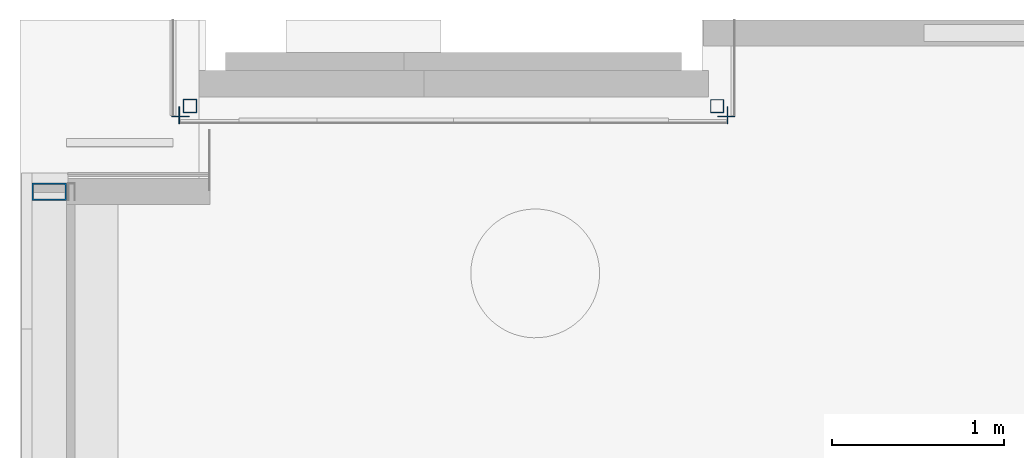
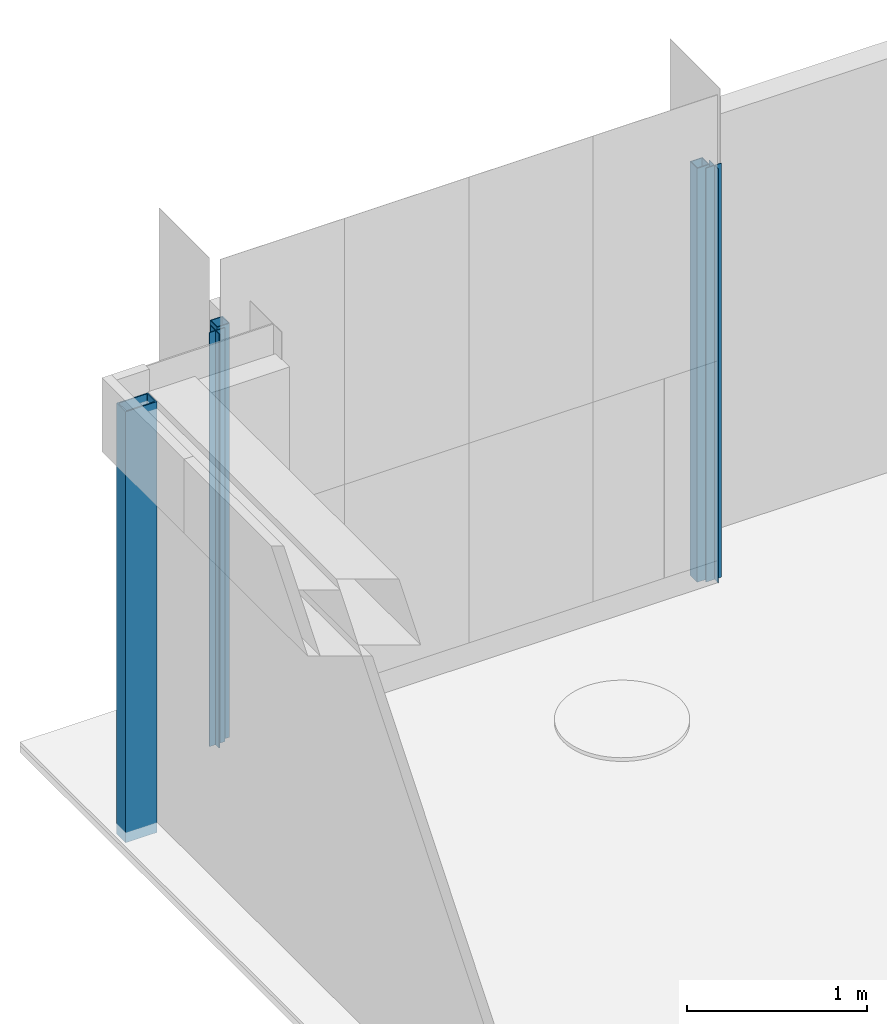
# One storey, part 2 of 14: 5 columns.
"""IFC2X3 building model written with IfcOpenShell, lengths in millimetres."""

from ifc_helpers import new_model, entity, si_unit, converted_unit, derived_unit, direction, frame, frame_2d, origin, origin_with_axes, place, context, subcontext, project, spatial, polyline, circle_curve, parameter, trimmed, segment, composite_curve, outline, extrude, source, transform, mapped, material, type_object, element, save


model = new_model("IFC2X3")

# Units and contexts
model_context = context("Model", 3, precision=0.01, world=frame((0.0, 4.29681676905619e-09, 0.0)), true_north=direction((4.01073788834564e-13, 1.0)))
plan_context = context("Plan", 3, precision=0.01, world=frame((0.0, 4.29681676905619e-09, 0.0)), true_north=direction((4.01073788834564e-13, 1.0)))
body_context = subcontext(model_context, "Body", "Model", "MODEL_VIEW")
ifc_project = project(units=[converted_unit("PLANEANGLEUNIT", "DEGREE", entity("IfcPositiveLengthMeasure", 0.0174532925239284), si_unit("PLANEANGLEUNIT", "RADIAN"), dimensions=[0, 0, 0, 0, 0, 0, 0]), si_unit("AREAUNIT", "SQUARE_METRE"), si_unit("LENGTHUNIT", "METRE", prefix="MILLI"), si_unit("MASSUNIT", "GRAM", prefix="KILO"), si_unit("POWERUNIT", "WATT"), si_unit("PRESSUREUNIT", "PASCAL"), si_unit("FORCEUNIT", "NEWTON", prefix="KILO"), si_unit("ELECTRICVOLTAGEUNIT", "VOLT"), si_unit("ELECTRICCURRENTUNIT", "AMPERE"), si_unit("THERMODYNAMICTEMPERATUREUNIT", "DEGREE_CELSIUS"), si_unit("TIMEUNIT", "SECOND"), si_unit("VOLUMEUNIT", "CUBIC_METRE"), derived_unit("LINEARVELOCITYUNIT", [(si_unit("LENGTHUNIT", "METRE"), 1), (si_unit("TIMEUNIT", "SECOND"), -1)]), derived_unit("VOLUMETRICFLOWRATEUNIT", [(si_unit("VOLUMEUNIT", "CUBIC_METRE"), 1), (si_unit("TIMEUNIT", "SECOND"), -1)]), derived_unit("THERMALTRANSMITTANCEUNIT", [(si_unit("POWERUNIT", "WATT"), 1), (si_unit("THERMODYNAMICTEMPERATUREUNIT", "KELVIN"), -1), (si_unit("AREAUNIT", "SQUARE_METRE"), -1)]), derived_unit("SOUNDPRESSUREUNIT", [(si_unit("PRESSUREUNIT", "PASCAL"), 1)])], contexts=[model_context, plan_context])

# Site, building, storey
site_placement = place(None, origin_with_axes())
site = spatial("IfcSite", under=ifc_project, at=site_placement, Name="ENGM", CompositionType="ELEMENT")
building_placement = place(site_placement, origin_with_axes())
building = spatial("IfcBuilding", under=site, at=building_placement, Name="TI", CompositionType="ELEMENT")
storey_placement = place(building_placement, frame((0.0, 0.0, 210900.0), z_axis=(0.0, 0.0, 1.0), x_axis=(1.0, 0.0, 0.0)))
storey = spatial("IfcBuildingStorey", under=building, at=storey_placement, Name="Nivå F", CompositionType="ELEMENT", Elevation=210900.0)

# Columns
ifc_material_1 = material(Name="_NSW Aluminium")
column_type_1 = type_object("IfcColumnType", Name="A222 - Ekstrudert Aluminiumsprofil - Hjørneprofil - Hel:A222 - Ekstrudert Aluminiumsprofil", PredefinedType="COLUMN", material=ifc_material_1)
shared_shape_1 = source(origin(), body_context, "Body", "SweptSolid", [
    extrude(outline(composite_curve([segment(polyline([(-42.1761976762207, 2.82981407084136), (-42.1761976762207, 1.78160499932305)]), True, "CONTINUOUS"), segment(trimmed(circle_curve(frame_2d((-39.2244067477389, 1.78160499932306), x_axis=(0.0, -1.0)), 2.95179092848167), [parameter(270.0)], [parameter(3.05333249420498e-13)], True, "PARAMETER"), True, "CONTINUOUS"), segment(polyline([(-39.2244067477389, -1.17018592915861), (-2.17494075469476, -1.1701859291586)]), True, "CONTINUOUS"), segment(trimmed(circle_curve(frame_2d((-2.17494075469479, -2.16892900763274), x_axis=(0.0, -1.0)), 0.998743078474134), [parameter(90.0000000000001)], [parameter(180.0)], True, "PARAMETER"), False, "CONTINUOUS"), segment(polyline([(-1.17619767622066, -2.16892900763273), (-1.17619767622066, -39.1789731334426)]), True, "CONTINUOUS"), segment(trimmed(circle_curve(frame_2d((1.81501511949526, -39.1789731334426), x_axis=(0.0, -1.0)), 2.99121279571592), [parameter(270.0)], [parameter(3.56222124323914e-13)], True, "PARAMETER"), True, "CONTINUOUS"), segment(polyline([(1.81501511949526, -42.1701859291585), (2.82380232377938, -42.1701859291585)]), True, "CONTINUOUS"), segment(polyline([(2.82380232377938, -42.1701859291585), (2.82380232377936, -2.20446749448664)]), True, "CONTINUOUS"), segment(trimmed(circle_curve(frame_2d((3.85808388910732, -2.20446749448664), x_axis=(0.0, -1.0)), 1.03428156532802), [parameter(180.0)], [parameter(270.0)], True, "PARAMETER"), False, "CONTINUOUS"), segment(polyline([(3.85808388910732, -1.17018592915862), (57.8238023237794, -1.1701859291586)]), True, "CONTINUOUS"), segment(polyline([(57.8238023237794, -1.1701859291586), (57.8238023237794, 2.82981407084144)]), True, "CONTINUOUS"), segment(polyline([(57.8238023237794, 2.82981407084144), (2.82380232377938, 2.82981407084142)]), True, "CONTINUOUS"), segment(polyline([(2.82380232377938, 2.82981407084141), (2.82380232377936, 57.8298140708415)]), True, "CONTINUOUS"), segment(polyline([(2.82380232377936, 57.8298140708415), (-1.17619767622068, 57.8298140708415)]), True, "CONTINUOUS"), segment(polyline([(-1.17619767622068, 57.8298140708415), (-1.17619767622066, 3.81299578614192)]), True, "CONTINUOUS"), segment(trimmed(circle_curve(frame_2d((-2.15937939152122, 3.81299578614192), x_axis=(0.0, -1.0)), 0.983181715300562), [parameter(0.0)], [parameter(90.0000000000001)], True, "PARAMETER"), False, "CONTINUOUS"), segment(polyline([(-2.15937939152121, 2.82981407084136), (-42.1761976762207, 2.82981407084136)]), True, "CONTINUOUS")], self_intersect=False)), frame((17.8298140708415, 17.8238023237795, 210900.0), z_axis=(0.0, 0.0, -1.0), x_axis=(0.0, -1.0, 0.0)), (0.0, 0.0, -1.0), 2799.99999999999),
])
column_1_placement = place(storey_placement, frame((598944.513867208, 698929.999999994, -210900.0), z_axis=(0.0, 0.0, 1.0), x_axis=(-1.0, 0.0, 0.0)))
element("IfcColumn", 1, at=column_1_placement, inside=storey, type_object=column_type_1, material=ifc_material_1, Name="A222 - Ekstrudert Aluminiumsprofil - Hjørneprofil - Hel:A222 - Ekstrudert Aluminiumsprofil", ObjectType="A222 - Ekstrudert Aluminiumsprofil - Hjørneprofil - Hel:A222 - Ekstrudert Aluminiumsprofil", context=body_context, shape_type="MappedRepresentation", body=[
    mapped(shared_shape_1, transform((0.0, 0.0, 0.0), scale=1.0)),
])
ifc_material_2 = material(Name="_NSW Stål")
column_type_2 = type_object("IfcColumnType", Name="B222 - HUP:B222 - HUP - 80 x 80 x 5 mm", PredefinedType="COLUMN", material=ifc_material_2)
shared_shape_2 = source(origin(), body_context, "Body", "SweptSolid", [
    extrude(outline(composite_curve([segment(trimmed(circle_curve(frame_2d((35.0, -35.0), x_axis=(1.0, 0.0)), 5.0), [parameter(269.999999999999)], [parameter(360.0)], True, "PARAMETER"), True, "CONTINUOUS"), segment(polyline([(40.0, -35.0), (40.0, 35.0)]), True, "CONTINUOUS"), segment(trimmed(circle_curve(frame_2d((35.0, 35.0), x_axis=(1.0, 0.0)), 5.0), [parameter(360.0)], [parameter(89.9999999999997)], True, "PARAMETER"), True, "CONTINUOUS"), segment(polyline([(35.0, 40.0), (-35.0, 40.0)]), True, "CONTINUOUS"), segment(trimmed(circle_curve(frame_2d((-35.0, 35.0), x_axis=(1.0, 0.0)), 5.0), [parameter(90.0)], [parameter(180.0)], True, "PARAMETER"), True, "CONTINUOUS"), segment(polyline([(-40.0, 35.0), (-40.0, -35.0)]), True, "CONTINUOUS"), segment(trimmed(circle_curve(frame_2d((-35.0, -35.0), x_axis=(1.0, 0.0)), 5.0), [parameter(180.0)], [parameter(269.999999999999)], True, "PARAMETER"), True, "CONTINUOUS"), segment(polyline([(-35.0, -40.0), (35.0, -40.0)]), True, "CONTINUOUS")], self_intersect=False), holes=[composite_curve([segment(polyline([(32.4999999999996, -35.0), (-32.4999999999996, -35.0)]), True, "CONTINUOUS"), segment(trimmed(circle_curve(frame_2d((-32.4999999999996, -32.4999999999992), x_axis=(1.0, 0.0)), 2.5), [parameter(180.0)], [parameter(270.0)], True, "PARAMETER"), False, "CONTINUOUS"), segment(polyline([(-35.0, -32.4999999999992), (-35.0, 32.5000000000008)]), True, "CONTINUOUS"), segment(trimmed(circle_curve(frame_2d((-32.4999999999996, 32.5000000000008), x_axis=(1.0, 0.0)), 2.5), [parameter(89.9999999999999)], [parameter(180.0)], True, "PARAMETER"), False, "CONTINUOUS"), segment(polyline([(-32.4999999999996, 35.0), (32.4999999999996, 35.0)]), True, "CONTINUOUS"), segment(trimmed(circle_curve(frame_2d((32.4999999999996, 32.5000000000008), x_axis=(1.0, 0.0)), 2.5), [parameter(4.07110999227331e-13)], [parameter(90.0000000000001)], True, "PARAMETER"), False, "CONTINUOUS"), segment(polyline([(35.0, 32.5000000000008), (35.0, -32.4999999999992)]), True, "CONTINUOUS"), segment(trimmed(circle_curve(frame_2d((32.4999999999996, -32.4999999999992), x_axis=(1.0, 0.0)), 2.5), [parameter(270.0)], [parameter(0.0)], True, "PARAMETER"), False, "CONTINUOUS")], self_intersect=False)]), frame((0.0, 0.0, 210900.0)), (0.0, 0.0, 1.0), 2799.99999999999),
    extrude(outline(polyline([(-40.0, -40.0), (40.0, -40.0), (40.0, 40.0), (-40.0, 40.0), (-40.0, -40.0)]), holes=[polyline([(-35.0, -35.0), (-35.0, 35.0), (35.0, 35.0), (35.0, -35.0), (-35.0, -35.0)])]), frame((0.0, 0.0, 210900.0), z_axis=(0.0, 0.0, 1.0), x_axis=(0.0, 1.0, 0.0)), (0.0, 0.0, 1.0), 2799.99999999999),
])
column_2_placement = place(storey_placement, frame((598989.513867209, 698974.999999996, -210900.0), z_axis=(0.0, 0.0, 1.0), x_axis=(-1.0, 0.0, 0.0)))
element("IfcColumn", 2, at=column_2_placement, inside=storey, type_object=column_type_2, material=ifc_material_2, Name="B222 - HUP:B222 - HUP - 80 x 80 x 5 mm", ObjectType="B222 - HUP:B222 - HUP - 80 x 80 x 5 mm", context=body_context, shape_type="MappedRepresentation", body=[
    mapped(shared_shape_2, transform((0.0, 0.0, 0.0), scale=1.0)),
])
column_type_3 = type_object("IfcColumnType", Name="A222 - Ekstrudert Aluminiumsprofil - Hjørneprofil - Hel:A222 - Ekstrudert Aluminiumsprofil", PredefinedType="COLUMN", material=ifc_material_1)
shared_shape_3 = source(origin(), body_context, "Body", "SweptSolid", [
    extrude(outline(composite_curve([segment(polyline([(-2.82981407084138, -42.1761976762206), (-1.78160499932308, -42.1761976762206)]), True, "CONTINUOUS"), segment(trimmed(circle_curve(frame_2d((-1.78160499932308, -39.2244067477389), x_axis=(1.0, 0.0)), 2.95179092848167), [parameter(270.0)], [parameter(3.05333249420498e-13)], True, "PARAMETER"), True, "CONTINUOUS"), segment(polyline([(1.17018592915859, -39.2244067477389), (1.17018592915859, -2.17494075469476)]), True, "CONTINUOUS"), segment(trimmed(circle_curve(frame_2d((2.16892900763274, -2.17494075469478), x_axis=(1.0, 0.0)), 0.998743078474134), [parameter(90.0000000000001)], [parameter(180.0)], True, "PARAMETER"), False, "CONTINUOUS"), segment(polyline([(2.16892900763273, -1.17619767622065), (39.1789731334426, -1.17619767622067)]), True, "CONTINUOUS"), segment(trimmed(circle_curve(frame_2d((39.1789731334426, 1.81501511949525), x_axis=(1.0, 0.0)), 2.99121279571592), [parameter(270.0)], [parameter(3.56222124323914e-13)], True, "PARAMETER"), True, "CONTINUOUS"), segment(polyline([(42.1701859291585, 1.81501511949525), (42.1701859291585, 2.82380232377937)]), True, "CONTINUOUS"), segment(polyline([(42.1701859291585, 2.82380232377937), (2.20446749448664, 2.82380232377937)]), True, "CONTINUOUS"), segment(trimmed(circle_curve(frame_2d((2.20446749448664, 3.85808388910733), x_axis=(1.0, 0.0)), 1.03428156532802), [parameter(180.0)], [parameter(270.0)], True, "PARAMETER"), False, "CONTINUOUS"), segment(polyline([(1.17018592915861, 3.85808388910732), (1.17018592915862, 57.8238023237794)]), True, "CONTINUOUS"), segment(polyline([(1.17018592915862, 57.8238023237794), (-2.82981407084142, 57.8238023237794)]), True, "CONTINUOUS"), segment(polyline([(-2.82981407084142, 57.8238023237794), (-2.82981407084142, 2.82380232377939)]), True, "CONTINUOUS"), segment(polyline([(-2.82981407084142, 2.82380232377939), (-57.8298140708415, 2.82380232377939)]), True, "CONTINUOUS"), segment(polyline([(-57.8298140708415, 2.82380232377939), (-57.8298140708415, -1.17619767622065)]), True, "CONTINUOUS"), segment(polyline([(-57.8298140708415, -1.17619767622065), (-3.81299578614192, -1.17619767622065)]), True, "CONTINUOUS"), segment(trimmed(circle_curve(frame_2d((-3.81299578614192, -2.15937939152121), x_axis=(1.0, 0.0)), 0.983181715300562), [parameter(0.0)], [parameter(90.0000000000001)], True, "PARAMETER"), False, "CONTINUOUS"), segment(polyline([(-2.82981407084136, -2.15937939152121), (-2.82981407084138, -42.1761976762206)]), True, "CONTINUOUS")], self_intersect=False)), frame((17.8298140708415, -17.8238023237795, 210900.0)), (0.0, 0.0, 1.0), 2799.99999999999),
])
column_3_placement = place(storey_placement, frame((602102.506445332, 698929.999999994, -210900.0), z_axis=(0.0, 0.0, 1.0), x_axis=(1.0, 0.0, 0.0)))
element("IfcColumn", 3, at=column_3_placement, inside=storey, type_object=column_type_3, material=ifc_material_1, Name="A222 - Ekstrudert Aluminiumsprofil - Hjørneprofil - Hel:A222 - Ekstrudert Aluminiumsprofil", ObjectType="A222 - Ekstrudert Aluminiumsprofil - Hjørneprofil - Hel:A222 - Ekstrudert Aluminiumsprofil", context=body_context, shape_type="MappedRepresentation", body=[
    mapped(shared_shape_3, transform((0.0, 0.0, 0.0), scale=1.0)),
])
column_type_4 = type_object("IfcColumnType", Name="B222 - HUP:B222 - HUP - 80 x 80 x 5 mm", PredefinedType="COLUMN", material=ifc_material_2)
shared_shape_4 = source(origin(), body_context, "Body", "SweptSolid", [
    extrude(outline(composite_curve([segment(polyline([(-35.0, -40.0), (35.0, -40.0)]), True, "CONTINUOUS"), segment(trimmed(circle_curve(frame_2d((35.0, -35.0), x_axis=(-1.0, 0.0)), 5.0), [parameter(90.0000000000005)], [parameter(180.0)], True, "PARAMETER"), True, "CONTINUOUS"), segment(polyline([(40.0, -35.0), (40.0, 35.0)]), True, "CONTINUOUS"), segment(trimmed(circle_curve(frame_2d((35.0, 35.0), x_axis=(-1.0, 0.0)), 5.0), [parameter(180.0)], [parameter(270.0)], True, "PARAMETER"), True, "CONTINUOUS"), segment(polyline([(35.0, 40.0), (-35.0, 40.0)]), True, "CONTINUOUS"), segment(trimmed(circle_curve(frame_2d((-35.0, 35.0), x_axis=(-1.0, 0.0)), 5.0), [parameter(270.0)], [parameter(4.07110999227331e-13)], True, "PARAMETER"), True, "CONTINUOUS"), segment(polyline([(-40.0, 35.0), (-40.0, -35.0)]), True, "CONTINUOUS"), segment(trimmed(circle_curve(frame_2d((-35.0, -35.0), x_axis=(-1.0, 0.0)), 5.0), [parameter(4.07110999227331e-13)], [parameter(90.0000000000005)], True, "PARAMETER"), True, "CONTINUOUS")], self_intersect=False), holes=[composite_curve([segment(trimmed(circle_curve(frame_2d((-32.4999999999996, -32.4999999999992), x_axis=(-1.0, 0.0)), 2.5), [parameter(0.0)], [parameter(90.0)], True, "PARAMETER"), False, "CONTINUOUS"), segment(polyline([(-35.0, -32.4999999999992), (-35.0, 32.5000000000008)]), True, "CONTINUOUS"), segment(trimmed(circle_curve(frame_2d((-32.4999999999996, 32.5000000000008), x_axis=(-1.0, 0.0)), 2.5), [parameter(270.0)], [parameter(360.0)], True, "PARAMETER"), False, "CONTINUOUS"), segment(polyline([(-32.4999999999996, 35.0), (32.4999999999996, 35.0)]), True, "CONTINUOUS"), segment(trimmed(circle_curve(frame_2d((32.4999999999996, 32.5000000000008), x_axis=(-1.0, 0.0)), 2.5), [parameter(180.0)], [parameter(270.0)], True, "PARAMETER"), False, "CONTINUOUS"), segment(polyline([(35.0, 32.5000000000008), (35.0, -32.4999999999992)]), True, "CONTINUOUS"), segment(trimmed(circle_curve(frame_2d((32.4999999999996, -32.4999999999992), x_axis=(-1.0, 0.0)), 2.5), [parameter(90.0)], [parameter(180.0)], True, "PARAMETER"), False, "CONTINUOUS"), segment(polyline([(32.4999999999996, -35.0), (-32.4999999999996, -35.0)]), True, "CONTINUOUS")], self_intersect=False)]), frame((0.0, 0.0, 210900.0), z_axis=(0.0, 0.0, 1.0), x_axis=(-1.0, 0.0, 0.0)), (0.0, 0.0, 1.0), 2799.99999999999),
    extrude(outline(polyline([(-40.0, -40.0), (40.0, -40.0), (40.0, 40.0), (-40.0, 40.0), (-40.0, -40.0)]), holes=[polyline([(-35.0, -35.0), (-35.0, 35.0), (35.0, 35.0), (35.0, -35.0), (-35.0, -35.0)])]), frame((0.0, 0.0, 210900.0), z_axis=(0.0, 0.0, 1.0), x_axis=(-1.0, 0.0, 0.0)), (0.0, 0.0, 1.0), 2799.99999999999),
])
column_4_placement = place(storey_placement, frame((602059.506445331, 698973.999999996, -210900.0), z_axis=(0.0, 0.0, 1.0), x_axis=(1.0, 0.0, 0.0)))
element("IfcColumn", 4, at=column_4_placement, inside=storey, type_object=column_type_4, material=ifc_material_2, Name="B222 - HUP:B222 - HUP - 80 x 80 x 5 mm", ObjectType="B222 - HUP:B222 - HUP - 80 x 80 x 5 mm", context=body_context, shape_type="MappedRepresentation", body=[
    mapped(shared_shape_4, transform((0.0, 0.0, 0.0), scale=1.0)),
])
column_type_5 = type_object("IfcColumnType", Name="B222 - HUP:B222 - HUP - 200 x 100 x 8", PredefinedType="COLUMN", material=ifc_material_2)
shared_shape_5 = source(origin(), body_context, "Body", "SweptSolid", [
    extrude(outline(composite_curve([segment(trimmed(circle_curve(frame_2d((42.0, -92.0), x_axis=(1.0, 0.0)), 8.0), [parameter(270.0)], [parameter(360.0)], True, "PARAMETER"), True, "CONTINUOUS"), segment(polyline([(50.0, -92.0), (50.0, 92.0)]), True, "CONTINUOUS"), segment(trimmed(circle_curve(frame_2d((42.0, 92.0), x_axis=(1.0, 0.0)), 8.0), [parameter(360.0)], [parameter(89.9999999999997)], True, "PARAMETER"), True, "CONTINUOUS"), segment(polyline([(42.0, 100.0), (-42.0, 100.0)]), True, "CONTINUOUS"), segment(trimmed(circle_curve(frame_2d((-42.0, 92.0), x_axis=(1.0, 0.0)), 8.0), [parameter(90.0)], [parameter(180.0)], True, "PARAMETER"), True, "CONTINUOUS"), segment(polyline([(-50.0, 92.0), (-50.0, -92.0)]), True, "CONTINUOUS"), segment(trimmed(circle_curve(frame_2d((-42.0, -92.0), x_axis=(1.0, 0.0)), 8.0), [parameter(180.0)], [parameter(269.999999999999)], True, "PARAMETER"), True, "CONTINUOUS"), segment(polyline([(-42.0, -100.0), (42.0, -100.0)]), True, "CONTINUOUS")], self_intersect=False), holes=[composite_curve([segment(polyline([(38.0, -92.0), (-38.0, -92.0)]), True, "CONTINUOUS"), segment(trimmed(circle_curve(frame_2d((-38.0, -88.0), x_axis=(1.0, 0.0)), 4.0), [parameter(180.0)], [parameter(270.0)], True, "PARAMETER"), False, "CONTINUOUS"), segment(polyline([(-42.0, -88.0), (-42.0, 88.0)]), True, "CONTINUOUS"), segment(trimmed(circle_curve(frame_2d((-38.0, 88.0), x_axis=(1.0, 0.0)), 4.0), [parameter(90.0000000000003)], [parameter(180.0)], True, "PARAMETER"), False, "CONTINUOUS"), segment(polyline([(-38.0, 92.0), (38.0, 92.0)]), True, "CONTINUOUS"), segment(trimmed(circle_curve(frame_2d((38.0, 88.0), x_axis=(1.0, 0.0)), 4.0), [parameter(5.08888749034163e-13)], [parameter(90.0000000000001)], True, "PARAMETER"), False, "CONTINUOUS"), segment(polyline([(42.0, 88.0), (42.0, -88.0)]), True, "CONTINUOUS"), segment(trimmed(circle_curve(frame_2d((38.0, -88.0), x_axis=(1.0, 0.0)), 4.0), [parameter(270.0)], [parameter(0.0)], True, "PARAMETER"), False, "CONTINUOUS")], self_intersect=False)]), frame((0.0, 0.0, 210830.0)), (0.0, 0.0, 1.0), 2914.99999999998),
    extrude(outline(polyline([(-100.0, -50.0), (100.0, -50.0), (100.0, 50.0), (-100.0, 50.0), (-100.0, -50.0)]), holes=[polyline([(-92.0, -42.0), (-92.0, 42.0), (92.0, 42.0), (92.0, -42.0), (-92.0, -42.0)])]), frame((0.0, 0.0, 210830.0), z_axis=(0.0, 0.0, 1.0), x_axis=(0.0, 1.0, 0.0)), (0.0, 0.0, 1.0), 2914.99999999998),
])
column_5_placement = place(storey_placement, frame((598169.99999994, 698474.999999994, -210900.0), z_axis=(0.0, 0.0, 1.0), x_axis=(0.0, 1.0, 0.0)))
element("IfcColumn", 5, at=column_5_placement, inside=storey, type_object=column_type_5, material=ifc_material_2, Name="B222 - HUP:B222 - HUP - 200 x 100 x 8", ObjectType="B222 - HUP:B222 - HUP - 200 x 100 x 8", context=body_context, shape_type="MappedRepresentation", body=[
    mapped(shared_shape_5, transform((0.0, 0.0, 0.0), scale=1.0)),
])

save(model, "model.ifc")
